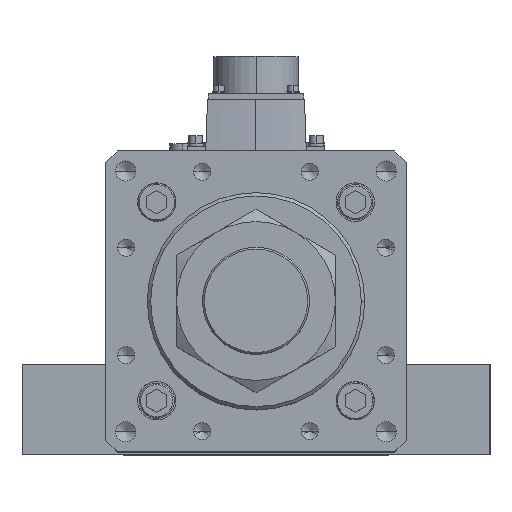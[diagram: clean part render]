
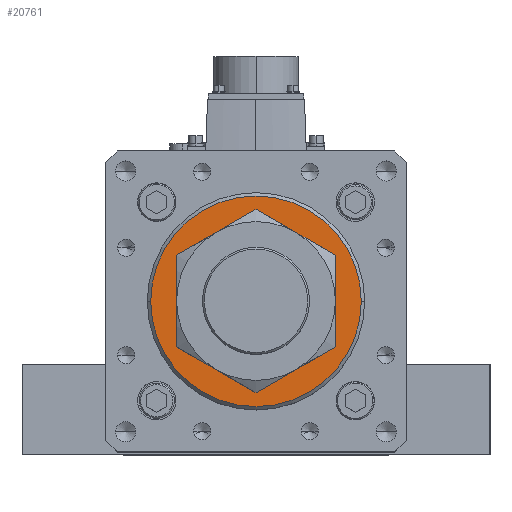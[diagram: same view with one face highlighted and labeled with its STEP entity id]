
A CAD part, top view. The second image highlights one B-rep face of the part: STEP entity #20761.
In plain terms, the highlighted planar face has unit normal (0, 0, 1).
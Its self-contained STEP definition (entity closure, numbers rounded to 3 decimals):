
#1226 = CARTESIAN_POINT ( 'NONE',  ( 0., 0., 862. ) ) ;
#3930 = DIRECTION ( 'NONE',  ( 0., 0., 1. ) ) ;
#12446 = DIRECTION ( 'NONE',  ( 1., 0., 0. ) ) ;
#12949 = CIRCLE ( 'NONE', #33458, 63. ) ;
#14126 = DIRECTION ( 'NONE',  ( 0., 0., -1. ) ) ;
#14889 = DIRECTION ( 'NONE',  ( 1., 0., 0. ) ) ;
#15486 = ORIENTED_EDGE ( 'NONE', *, *, #35774, .T. ) ;
#15980 = AXIS2_PLACEMENT_3D ( 'NONE', #1226, #23475, #50302 ) ;
#17150 = EDGE_CURVE ( 'NONE', #44138, #33948, #43963, .T. ) ;
#19750 = FACE_OUTER_BOUND ( 'NONE', #44440, .T. ) ;
#20671 = AXIS2_PLACEMENT_3D ( 'NONE', #54858, #41751, #45971 ) ;
#20761 = ADVANCED_FACE ( 'NONE', ( #39140, #19750 ), #21129, .T. ) ;
#21129 = PLANE ( 'NONE',  #55614 ) ;
#22659 = CARTESIAN_POINT ( 'NONE',  ( 0., 0., 862. ) ) ;
#23461 = CARTESIAN_POINT ( 'NONE',  ( -40.5, 0., 862. ) ) ;
#23475 = DIRECTION ( 'NONE',  ( 0., 0., 1. ) ) ;
#25067 = CARTESIAN_POINT ( 'NONE',  ( -63., 0., 862. ) ) ;
#25867 = CIRCLE ( 'NONE', #48116, 40.5 ) ;
#26794 = EDGE_LOOP ( 'NONE', ( #34675, #15486 ) ) ;
#31231 = EDGE_CURVE ( 'NONE', #50275, #47170, #12949, .T. ) ;
#31916 = DIRECTION ( 'NONE',  ( 0., 0., 1. ) ) ;
#33458 = AXIS2_PLACEMENT_3D ( 'NONE', #22659, #31916, #53557 ) ;
#33460 = ORIENTED_EDGE ( 'NONE', *, *, #31231, .T. ) ;
#33948 = VERTEX_POINT ( 'NONE', #23461 ) ;
#34675 = ORIENTED_EDGE ( 'NONE', *, *, #17150, .T. ) ;
#35774 = EDGE_CURVE ( 'NONE', #33948, #44138, #25867, .T. ) ;
#36922 = CIRCLE ( 'NONE', #15980, 63. ) ;
#38417 = CARTESIAN_POINT ( 'NONE',  ( 63., 0., 862. ) ) ;
#39140 = FACE_BOUND ( 'NONE', #26794, .T. ) ;
#39456 = EDGE_CURVE ( 'NONE', #47170, #50275, #36922, .T. ) ;
#41751 = DIRECTION ( 'NONE',  ( 0., 0., -1. ) ) ;
#43963 = CIRCLE ( 'NONE', #20671, 40.5 ) ;
#44138 = VERTEX_POINT ( 'NONE', #56517 ) ;
#44440 = EDGE_LOOP ( 'NONE', ( #51404, #33460 ) ) ;
#45971 = DIRECTION ( 'NONE',  ( 1., 0., 0. ) ) ;
#47170 = VERTEX_POINT ( 'NONE', #25067 ) ;
#48116 = AXIS2_PLACEMENT_3D ( 'NONE', #54686, #14126, #14889 ) ;
#50275 = VERTEX_POINT ( 'NONE', #38417 ) ;
#50302 = DIRECTION ( 'NONE',  ( 1., 0., 0. ) ) ;
#51404 = ORIENTED_EDGE ( 'NONE', *, *, #39456, .T. ) ;
#52057 = CARTESIAN_POINT ( 'NONE',  ( 0., 0., 862. ) ) ;
#53557 = DIRECTION ( 'NONE',  ( 1., 0., 0. ) ) ;
#54686 = CARTESIAN_POINT ( 'NONE',  ( 0., 0., 862. ) ) ;
#54858 = CARTESIAN_POINT ( 'NONE',  ( 0., 0., 862. ) ) ;
#55614 = AXIS2_PLACEMENT_3D ( 'NONE', #52057, #3930, #12446 ) ;
#56517 = CARTESIAN_POINT ( 'NONE',  ( 40.5, 0., 862. ) ) ;
